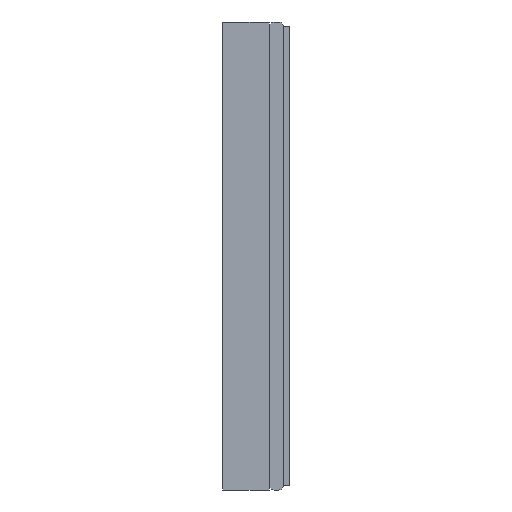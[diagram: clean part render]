
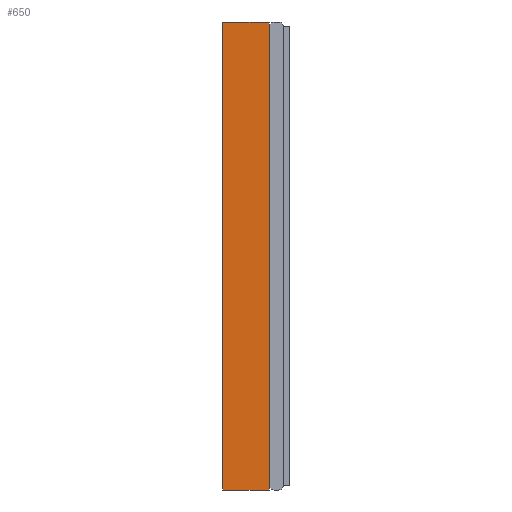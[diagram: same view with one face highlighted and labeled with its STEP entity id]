
A CAD part, left-side view. The second image highlights one B-rep face of the part: STEP entity #650.
In plain terms, the highlighted planar face has unit normal (-1, 0, 0) as drawn and (0, 0, -1) by its records, which use the part's own axes.
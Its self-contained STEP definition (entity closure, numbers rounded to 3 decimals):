
#9 = CARTESIAN_POINT ( 'NONE',  ( 10., 0.3, -1000. ) ) ;
#29 = DIRECTION ( 'NONE',  ( -1., 0., 0. ) ) ;
#74 = CARTESIAN_POINT ( 'NONE',  ( 0., 1.3, -1000. ) ) ;
#78 = ORIENTED_EDGE ( 'NONE', *, *, #723, .F. ) ;
#133 = ORIENTED_EDGE ( 'NONE', *, *, #394, .F. ) ;
#168 = ORIENTED_EDGE ( 'NONE', *, *, #2199, .F. ) ;
#187 = ORIENTED_EDGE ( 'NONE', *, *, #2156, .F. ) ;
#245 = VERTEX_POINT ( 'NONE', #74 ) ;
#313 = CARTESIAN_POINT ( 'NONE',  ( 10., 0.3, -1000. ) ) ;
#349 = CARTESIAN_POINT ( 'NONE',  ( 0., 0.3, -1000. ) ) ;
#394 = EDGE_CURVE ( 'NONE', #245, #1204, #565, .T. ) ;
#475 = DIRECTION ( 'NONE',  ( 0., 1., 0. ) ) ;
#565 = LINE ( 'NONE', #1872, #2248 ) ;
#646 = LINE ( 'NONE', #313, #1885 ) ;
#650 = ADVANCED_FACE ( 'NONE', ( #1702 ), #1372, .T. ) ;
#723 = EDGE_CURVE ( 'NONE', #2122, #1949, #646, .T. ) ;
#808 = CARTESIAN_POINT ( 'NONE',  ( 0., 0.3, -1000. ) ) ;
#994 = CARTESIAN_POINT ( 'NONE',  ( 0., 0., -1000. ) ) ;
#1094 = DIRECTION ( 'NONE',  ( 1., 0., 0. ) ) ;
#1162 = CARTESIAN_POINT ( 'NONE',  ( 10., 1.3, -1000. ) ) ;
#1203 = DIRECTION ( 'NONE',  ( 0., 0., -1. ) ) ;
#1204 = VERTEX_POINT ( 'NONE', #808 ) ;
#1281 = LINE ( 'NONE', #349, #2378 ) ;
#1292 = DIRECTION ( 'NONE',  ( -1., 0., 0. ) ) ;
#1372 = PLANE ( 'NONE',  #2123 ) ;
#1670 = LINE ( 'NONE', #1854, #1909 ) ;
#1683 = DIRECTION ( 'NONE',  ( 0., -1., 0. ) ) ;
#1702 = FACE_OUTER_BOUND ( 'NONE', #2409, .T. ) ;
#1854 = CARTESIAN_POINT ( 'NONE',  ( 0., 1.3, -1000. ) ) ;
#1872 = CARTESIAN_POINT ( 'NONE',  ( 0., 0.3, -1000. ) ) ;
#1885 = VECTOR ( 'NONE', #475, 1000. ) ;
#1909 = VECTOR ( 'NONE', #1292, 1000. ) ;
#1949 = VERTEX_POINT ( 'NONE', #1162 ) ;
#2122 = VERTEX_POINT ( 'NONE', #9 ) ;
#2123 = AXIS2_PLACEMENT_3D ( 'NONE', #994, #1203, #29 ) ;
#2156 = EDGE_CURVE ( 'NONE', #1949, #245, #1670, .T. ) ;
#2199 = EDGE_CURVE ( 'NONE', #1204, #2122, #1281, .T. ) ;
#2248 = VECTOR ( 'NONE', #1683, 1000. ) ;
#2378 = VECTOR ( 'NONE', #1094, 1000. ) ;
#2409 = EDGE_LOOP ( 'NONE', ( #133, #187, #78, #168 ) ) ;
